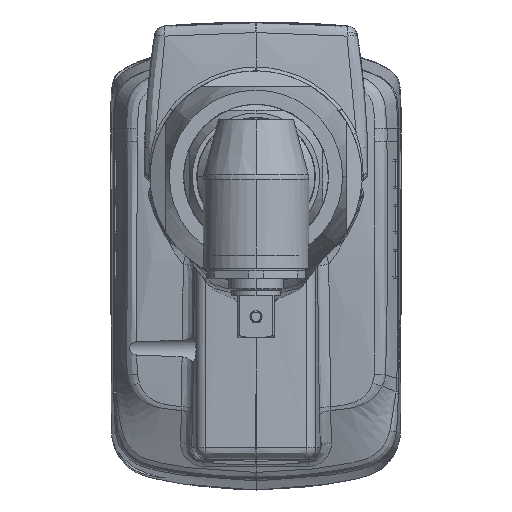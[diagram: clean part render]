
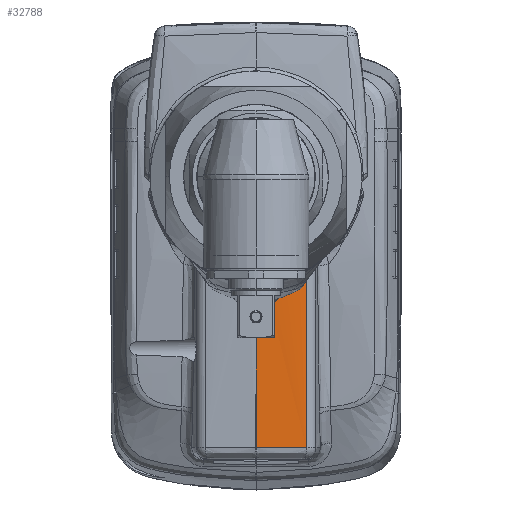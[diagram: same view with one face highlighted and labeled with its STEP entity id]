
A CAD part, front view. The second image highlights one B-rep face of the part: STEP entity #32788.
In plain terms, the highlighted free-form (B-spline) face has degree [3, 1] with [4, 2] control points.
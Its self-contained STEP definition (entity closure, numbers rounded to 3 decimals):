
#1407 = VERTEX_POINT ( 'NONE', #16746 ) ;
#3373 = CARTESIAN_POINT ( 'NONE',  ( 10.101, 281.268, -21.567 ) ) ;
#3967 = EDGE_CURVE ( 'NONE', #49819, #17910, #121701, .T. ) ;
#4147 = CARTESIAN_POINT ( 'NONE',  ( 5.048, 280.87, -69. ) ) ;
#4593 =( BOUNDED_CURVE ( )  B_SPLINE_CURVE ( 3, ( #54901, #4147, #44861, #101429 ),
 .UNSPECIFIED., .F., .T. ) 
 B_SPLINE_CURVE_WITH_KNOTS ( ( 4, 4 ),
 ( 0., 1. ),
 .UNSPECIFIED. ) 
 CURVE ( )  GEOMETRIC_REPRESENTATION_ITEM ( )  RATIONAL_B_SPLINE_CURVE ( ( 1., 0.937, 0.937, 1. ) ) 
 REPRESENTATION_ITEM ( '' )  );
#4670 = CARTESIAN_POINT ( 'NONE',  ( 8.332, 281.13, -22.887 ) ) ;
#4976 = ORIENTED_EDGE ( 'NONE', *, *, #41163, .F. ) ;
#6313 = CARTESIAN_POINT ( 'NONE',  ( 5.27, 280.969, -24.445 ) ) ;
#7334 = CARTESIAN_POINT ( 'NONE',  ( 5.048, 280.87, -18.403 ) ) ;
#9824 = DIRECTION ( 'NONE',  ( 0., 0., -1. ) ) ;
#12695 = CARTESIAN_POINT ( 'NONE',  ( 10.463, 281.301, -21.254 ) ) ;
#13377 = CARTESIAN_POINT ( 'NONE',  ( 7.784, 281.095, -23.226 ) ) ;
#13988 = CARTESIAN_POINT ( 'NONE',  ( 0., 280.87, -69. ) ) ;
#14030 = CARTESIAN_POINT ( 'NONE',  ( 10.318, 281.288, -21.381 ) ) ;
#14274 = VECTOR ( 'NONE', #9824, 1000. ) ;
#14286 = CARTESIAN_POINT ( 'NONE',  ( 1.77, 280.878, -25.34 ) ) ;
#14679 = CARTESIAN_POINT ( 'NONE',  ( 11.497, 281.407, -20.255 ) ) ;
#15015 = VERTEX_POINT ( 'NONE', #87297 ) ;
#15337 = CARTESIAN_POINT ( 'NONE',  ( 9.993, 281.259, -21.658 ) ) ;
#16746 = CARTESIAN_POINT ( 'NONE',  ( 12.836, 281.575, -69. ) ) ;
#17251 = CARTESIAN_POINT ( 'NONE',  ( 0., 280.87, -25.421 ) ) ;
#17910 = VERTEX_POINT ( 'NONE', #64371 ) ;
#23376 = CARTESIAN_POINT ( 'NONE',  ( 12.608, 281.543, -18.999 ) ) ;
#23736 = ORIENTED_EDGE ( 'NONE', *, *, #89502, .T. ) ;
#24047 = CARTESIAN_POINT ( 'NONE',  ( 10.897, 281.343, -20.858 ) ) ;
#27373 = CARTESIAN_POINT ( 'NONE',  ( 0., 280.87, -18.403 ) ) ;
#31119 = EDGE_CURVE ( 'NONE', #15015, #1407, #111345, .T. ) ;
#31584 = ORIENTED_EDGE ( 'NONE', *, *, #49524, .T. ) ;
#32788 = ADVANCED_FACE ( 'NONE', ( #88172 ), #50419, .F. ) ;
#34310 = CARTESIAN_POINT ( 'NONE',  ( 3.083, 280.902, -25.099 ) ) ;
#41163 = EDGE_CURVE ( 'NONE', #53422, #17910, #97518, .T. ) ;
#43418 = CARTESIAN_POINT ( 'NONE',  ( 9.867, 281.248, -21.761 ) ) ;
#44073 = CARTESIAN_POINT ( 'NONE',  ( 9.76, 281.239, -21.849 ) ) ;
#44732 = CARTESIAN_POINT ( 'NONE',  ( 9.778, 281.24, -21.834 ) ) ;
#44861 = CARTESIAN_POINT ( 'NONE',  ( 9.616, 281.121, -69. ) ) ;
#45451 = CARTESIAN_POINT ( 'NONE',  ( 9.616, 281.121, -18.403 ) ) ;
#46000 = ORIENTED_EDGE ( 'NONE', *, *, #3967, .T. ) ;
#46049 = CARTESIAN_POINT ( 'NONE',  ( 11.57, 281.415, -20.178 ) ) ;
#48069 = CARTESIAN_POINT ( 'NONE',  ( 9.616, 281.121, -69. ) ) ;
#49524 = EDGE_CURVE ( 'NONE', #15015, #49819, #123269, .T. ) ;
#49819 = VERTEX_POINT ( 'NONE', #6313 ) ;
#50419 =( BOUNDED_SURFACE ( )  B_SPLINE_SURFACE ( 3, 1, ( 
 ( #27373, #68148 ),
 ( #7334, #108861 ),
 ( #45451, #48069 ),
 ( #86206, #126936 ) ),
 .UNSPECIFIED., .F., .F., .F. ) 
 B_SPLINE_SURFACE_WITH_KNOTS ( ( 4, 4 ),
 ( 2, 2 ),
 ( 0., 1. ),
 ( 0., 1. ),
 .UNSPECIFIED. ) 
 GEOMETRIC_REPRESENTATION_ITEM ( )  RATIONAL_B_SPLINE_SURFACE ( (
 ( 1., 1.),
 ( 0.937, 0.937),
 ( 0.937, 0.937),
 ( 1., 1.) ) ) 
 REPRESENTATION_ITEM ( '' )  SURFACE ( )  );
#53422 = VERTEX_POINT ( 'NONE', #68727 ) ;
#54112 = CARTESIAN_POINT ( 'NONE',  ( 11.521, 281.41, -20.229 ) ) ;
#54770 = CARTESIAN_POINT ( 'NONE',  ( 7.821, 281.097, -23.204 ) ) ;
#54901 = CARTESIAN_POINT ( 'NONE',  ( 0., 280.87, -69. ) ) ;
#55024 = CARTESIAN_POINT ( 'NONE',  ( 5.27, 280.969, -24.445 ) ) ;
#56990 = CARTESIAN_POINT ( 'NONE',  ( 4.838, 280.953, -24.609 ) ) ;
#60399 = EDGE_LOOP ( 'NONE', ( #4976, #23736, #78899, #31584, #46000 ) ) ;
#63494 = CARTESIAN_POINT ( 'NONE',  ( 11.752, 281.436, -19.984 ) ) ;
#64371 = CARTESIAN_POINT ( 'NONE',  ( 0., 280.87, -25.421 ) ) ;
#64827 = CARTESIAN_POINT ( 'NONE',  ( 11.668, 281.427, -20.075 ) ) ;
#65469 = CARTESIAN_POINT ( 'NONE',  ( 11.186, 281.373, -20.577 ) ) ;
#68148 = CARTESIAN_POINT ( 'NONE',  ( 0., 280.87, -69. ) ) ;
#68727 = CARTESIAN_POINT ( 'NONE',  ( 0., 280.87, -69. ) ) ;
#74169 = CARTESIAN_POINT ( 'NONE',  ( 6.103, 281.002, -24.129 ) ) ;
#74834 = CARTESIAN_POINT ( 'NONE',  ( 11.486, 281.406, -20.266 ) ) ;
#75486 = CARTESIAN_POINT ( 'NONE',  ( 12.035, 281.47, -19.672 ) ) ;
#76136 = CARTESIAN_POINT ( 'NONE',  ( 11.922, 281.456, -19.799 ) ) ;
#77053 = CARTESIAN_POINT ( 'NONE',  ( 4.402, 280.938, -24.753 ) ) ;
#78899 = ORIENTED_EDGE ( 'NONE', *, *, #31119, .F. ) ;
#81945 = CARTESIAN_POINT ( 'NONE',  ( 12.836, 281.575, -18.705 ) ) ;
#84845 = CARTESIAN_POINT ( 'NONE',  ( 9.082, 281.184, -22.374 ) ) ;
#85751 = CARTESIAN_POINT ( 'NONE',  ( 0., 280.87, -25.421 ) ) ;
#86153 = CARTESIAN_POINT ( 'NONE',  ( 12.836, 281.575, -18.705 ) ) ;
#86206 = CARTESIAN_POINT ( 'NONE',  ( 12.836, 281.575, -18.403 ) ) ;
#86402 = CARTESIAN_POINT ( 'NONE',  ( 3.525, 280.913, -24.997 ) ) ;
#86808 = CARTESIAN_POINT ( 'NONE',  ( 9.752, 281.238, -21.855 ) ) ;
#87297 = CARTESIAN_POINT ( 'NONE',  ( 12.836, 281.575, -18.705 ) ) ;
#88172 = FACE_OUTER_BOUND ( 'NONE', #60399, .T. ) ;
#89502 = EDGE_CURVE ( 'NONE', #53422, #1407, #4593, .T. ) ;
#94207 = CARTESIAN_POINT ( 'NONE',  ( 7.894, 281.102, -23.16 ) ) ;
#94866 = CARTESIAN_POINT ( 'NONE',  ( 9.805, 281.242, -21.813 ) ) ;
#95525 = CARTESIAN_POINT ( 'NONE',  ( 7.754, 281.093, -23.244 ) ) ;
#95779 = CARTESIAN_POINT ( 'NONE',  ( 0.882, 280.87, -25.421 ) ) ;
#96178 = CARTESIAN_POINT ( 'NONE',  ( 9.413, 281.209, -22.127 ) ) ;
#97518 = B_SPLINE_CURVE_WITH_KNOTS ( 'NONE', 1,
 ( #13988, #17251 ),
 .UNSPECIFIED., .F., .F.,
 ( 2, 2 ),
 ( 0., 1. ),
 .UNSPECIFIED. ) ;
#101429 = CARTESIAN_POINT ( 'NONE',  ( 12.836, 281.575, -69. ) ) ;
#104236 = CARTESIAN_POINT ( 'NONE',  ( 11.477, 281.405, -20.275 ) ) ;
#104902 = CARTESIAN_POINT ( 'NONE',  ( 8.04, 281.111, -23.071 ) ) ;
#105548 = CARTESIAN_POINT ( 'NONE',  ( 7.769, 281.094, -23.236 ) ) ;
#108861 = CARTESIAN_POINT ( 'NONE',  ( 5.048, 280.87, -69. ) ) ;
#111345 = LINE ( 'NONE', #81945, #14274 ) ;
#115556 = CARTESIAN_POINT ( 'NONE',  ( 8.582, 281.148, -22.72 ) ) ;
#116854 = CARTESIAN_POINT ( 'NONE',  ( 5.27, 280.969, -24.445 ) ) ;
#121701 = B_SPLINE_CURVE_WITH_KNOTS ( 'NONE', 3,
 ( #55024, #56990, #77053, #86402, #34310, #14286, #95779, #85751 ),
 .UNSPECIFIED., .F., .F.,
 ( 4, 2, 2, 4 ),
 ( 0., 0.25, 0.5, 1. ),
 .UNSPECIFIED. ) ;
#123269 = B_SPLINE_CURVE_WITH_KNOTS ( 'NONE', 3,
 ( #86153, #23376, #127537, #75486, #76136, #63494, #64827, #46049, #54112, #14679, #74834, #126884, #104236, #65469, #24047, #12695, #14030, #3373, #15337, #43418, #94866, #44732, #44073, #86808, #96178, #84845, #115556, #4670, #104902, #94207, #54770, #13377, #105548, #125584, #95525, #124922, #74169, #116854 ),
 .UNSPECIFIED., .F., .F.,
 ( 4, 2, 2, 1, 1, 1, 1, 2, 2, 2, 2, 1, 1, 1, 2, 2, 2, 1, 1, 1, 1, 1, 2, 2, 4 ),
 ( 0., 0.125, 0.187, 0.219, 0.234, 0.242, 0.246, 0.248, 0.25, 0.375, 0.437, 0.469, 0.484, 0.492, 0.496, 0.5, 0.625, 0.687, 0.719, 0.734, 0.742, 0.746, 0.748, 0.75, 1. ),
 .UNSPECIFIED. ) ;
#124922 = CARTESIAN_POINT ( 'NONE',  ( 6.936, 281.043, -23.73 ) ) ;
#125584 = CARTESIAN_POINT ( 'NONE',  ( 7.758, 281.094, -23.242 ) ) ;
#126884 = CARTESIAN_POINT ( 'NONE',  ( 11.479, 281.405, -20.273 ) ) ;
#126936 = CARTESIAN_POINT ( 'NONE',  ( 12.836, 281.575, -69. ) ) ;
#127537 = CARTESIAN_POINT ( 'NONE',  ( 12.378, 281.513, -19.278 ) ) ;
